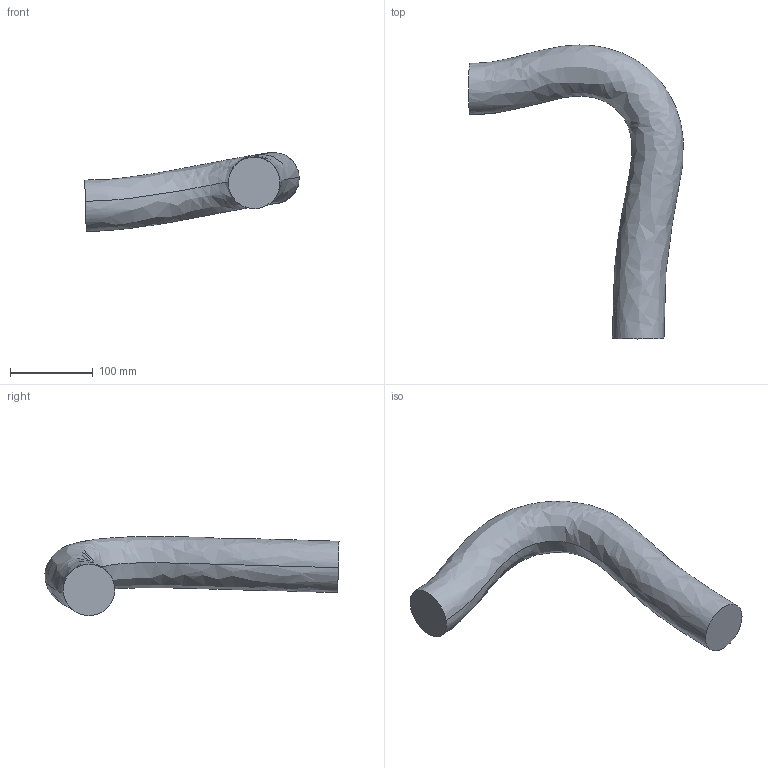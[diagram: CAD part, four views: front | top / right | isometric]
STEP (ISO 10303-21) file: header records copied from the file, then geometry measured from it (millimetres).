
FILE_DESCRIPTION (( 'STEP AP214' ), '1' );
FILE_NAME ('IRB5710-LID_70kg-270_OmniCore_rev00_LINK05_CABLE.step', '2025-07-07T14:20:10', ( '' ), ( '' ), 'SwSTEP 2.0', 'SolidWorks 2024', '' );
FILE_SCHEMA (( 'AUTOMOTIVE_DESIGN' ));
Length unit declared in the file: millimetre
Products named in the file (1): IRB5710-LID_70kg-270_OmniCore_rev00_LINK05_CABLE
Bounding box: 258.77 x 354.8 x 95.63 mm (x, y, z)
Volume: 1573344 mm3; surface area: 107260.1 mm2
Topology: 1 solids, 1 shells, 4 faces, 6 edges, 4 vertices
Faces by surface type: bspline 2, plane 2
Entity records: 849 total; most frequent: CARTESIAN_POINT 715, DIRECTION 14, ORIENTED_EDGE 12, AXIS2_PLACEMENT_3D 7, UNCERTAINTY_MEASURE_WITH_UNIT 6, EDGE_CURVE 6, FILL_AREA_STYLE_COLOUR 5, COLOUR_RGB 5
